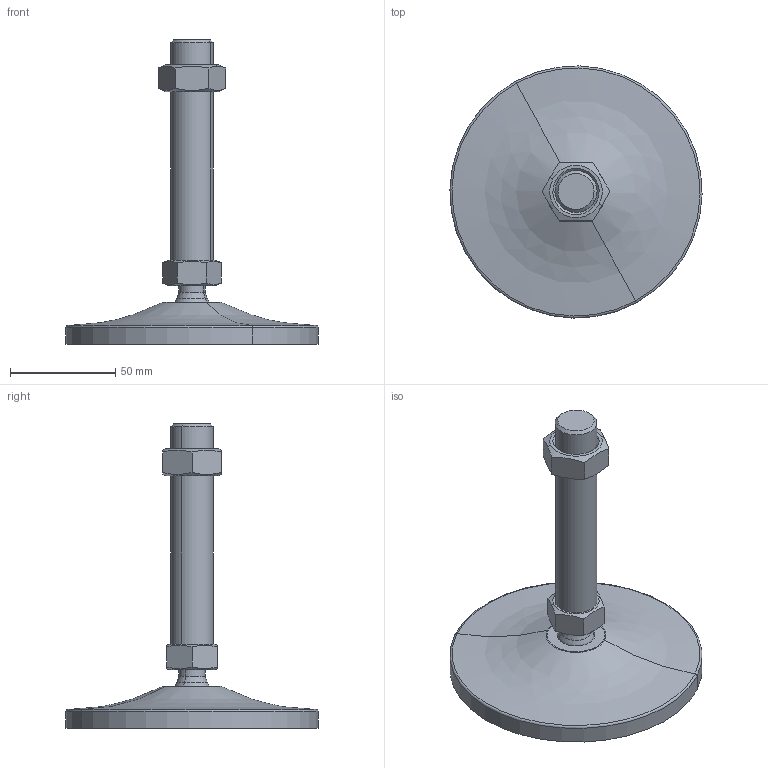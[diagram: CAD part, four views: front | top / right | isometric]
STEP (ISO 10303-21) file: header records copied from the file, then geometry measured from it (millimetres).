
FILE_DESCRIPTION(('CATIA V5 STEP Exchange'),'2;1');
FILE_NAME('C:\Users\ALI OZGUN\Desktop\alhan\saplama2\560122015.stp','2017-09-21T10:36:02+00:00',('none'),('none'),'CATIA Version 5 Release 21 GA (IN-10)','CATIA V5 STEP AP203','none');
FILE_SCHEMA(('CONFIG_CONTROL_DESIGN'));
Length unit declared in the file: millimetre
Products named in the file (1): 560122015
Bounding box: 119.97 x 119.97 x 145 mm (x, y, z)
Volume: 131086.6 mm3; surface area: 40128.4 mm2
Topology: 3 solids, 3 shells, 60 faces, 136 edges, 83 vertices
Faces by surface type: plane 20, cone 16, cylinder 14, torus 4, revolution 4, sphere 2
Entity records: 1878 total; most frequent: CARTESIAN_POINT 636, ORIENTED_EDGE 268, DIRECTION 185, EDGE_CURVE 134, AXIS2_PLACEMENT_3D 99, VERTEX_POINT 83, EDGE_LOOP 67, ADVANCED_FACE 60
